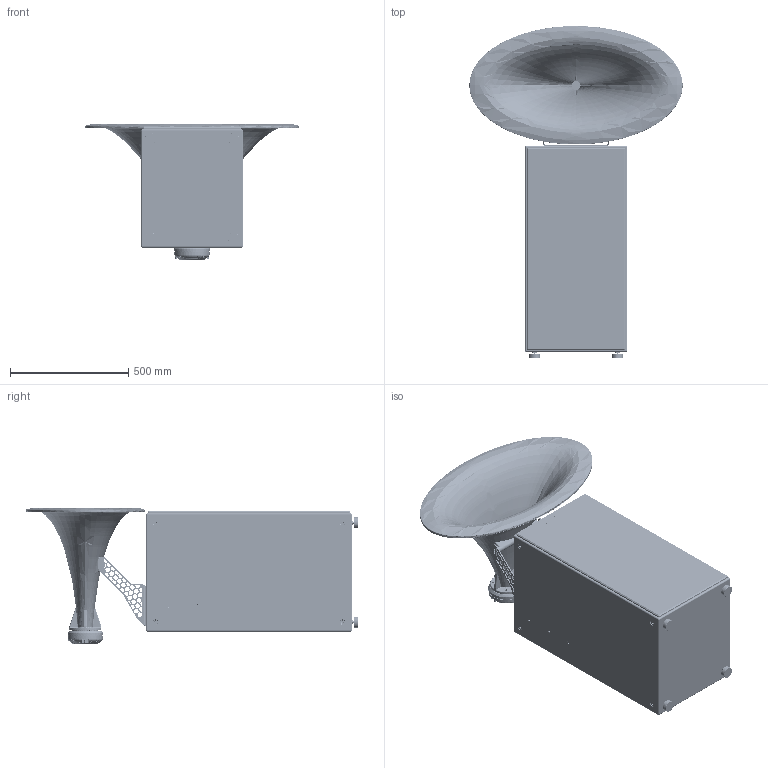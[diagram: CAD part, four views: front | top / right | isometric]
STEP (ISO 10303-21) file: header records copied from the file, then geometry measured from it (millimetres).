
FILE_DESCRIPTION(/* description */ (''),/* implementation_level */ '2;1');
FILE_NAME(/* name */ '2024_3D_THE BLACK SWAN (Be)_Public Drawing.step',/* time_stamp */ '2024-11-30T08:22:34+01:00',/* author */ (''),/* organization */ (''),/* preprocessor_version */ 'ST-DEVELOPER v20',/* originating_system */ 'Autodesk Translation Framework v13.20.0.188',/* authorisation */ '');
FILE_SCHEMA (('AUTOMOTIVE_DESIGN { 1 0 10303 214 3 1 1 }'));
Products named in the file (3): Black Swan mkii; COMBINE_Grille; COMBINE_FullSpkr
Assembly tree (2 placements, depth 2):
  Black Swan mkii
    COMBINE_Grille
    COMBINE_FullSpkr
Bounding box: 900.32 x 1400.84 x 576.96 mm (x, y, z)
Volume: 55891100.1 mm3; surface area: 7816562.1 mm2
Topology: 4 solids, 79 shells, 11655 faces, 29460 edges, 18373 vertices
Faces by surface type: plane 4168, bspline 3517, cylinder 2306, torus 930, cone 549, sphere 185
Full cylindrical faces by diameter (mm): 1.2 x12, 1.8 x2, 2 x24, 2.5 x2, 3 x93, 3.086 x70, 3.2 x2, 3.3 x12, 3.5 x10, 3.8 x1, 4 x20, 4.5 x2, 5 x35, 5.2 x8, 6 x10, 6.5 x4, 6.6 x1, 6.7 x2, 6.701 x21, 6.8 x2, 7 x6, 8 x24, 8.3 x4, 8.5 x5, 9.3 x2, 9.5 x2, 10.5 x8, 12 x30, 12.4 x42, 12.5 x42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
Entity records: 644567 total; most frequent: CARTESIAN_POINT 381024, ORIENTED_EDGE 58982, DIRECTION 49118, EDGE_CURVE 29491, VERTEX_POINT 18381, AXIS2_PLACEMENT_3D 17957, LINE 13204, VECTOR 13204
